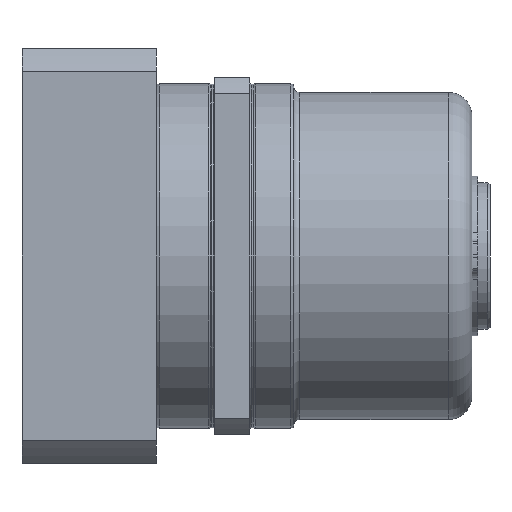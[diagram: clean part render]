
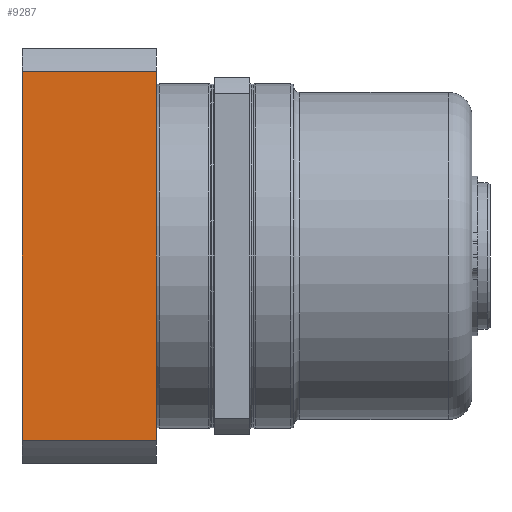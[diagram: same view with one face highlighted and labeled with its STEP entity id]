
A CAD part, front view. The second image highlights one B-rep face of the part: STEP entity #9287.
In plain terms, the highlighted planar face has unit normal (0, -1, 0).
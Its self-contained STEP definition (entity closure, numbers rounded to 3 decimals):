
#2 = DIRECTION ( 'NONE',  ( 0., 0., -1. ) ) ;
#249 = ORIENTED_EDGE ( 'NONE', *, *, #9920, .T. ) ;
#914 = AXIS2_PLACEMENT_3D ( 'NONE', #2559, #1323, #9084 ) ;
#1035 = FACE_OUTER_BOUND ( 'NONE', #7333, .T. ) ;
#1204 = VECTOR ( 'NONE', #8772, 1000. ) ;
#1323 = DIRECTION ( 'NONE',  ( 0., 1., 0. ) ) ;
#1797 = CARTESIAN_POINT ( 'NONE',  ( 0., -71., 63.119 ) ) ;
#1909 = CARTESIAN_POINT ( 'NONE',  ( -46., -71., -71. ) ) ;
#2559 = CARTESIAN_POINT ( 'NONE',  ( 0., -71., -71. ) ) ;
#2622 = LINE ( 'NONE', #11414, #11895 ) ;
#2745 = EDGE_CURVE ( 'NONE', #13774, #6111, #11878, .T. ) ;
#3075 = CARTESIAN_POINT ( 'NONE',  ( -46.001, -71., 63.119 ) ) ;
#3636 = CARTESIAN_POINT ( 'NONE',  ( 0., -71., -63.119 ) ) ;
#5247 = DIRECTION ( 'NONE',  ( -1., 0., 0. ) ) ;
#5279 = CARTESIAN_POINT ( 'NONE',  ( -46., -71., 63.119 ) ) ;
#6015 = ORIENTED_EDGE ( 'NONE', *, *, #2745, .T. ) ;
#6111 = VERTEX_POINT ( 'NONE', #12808 ) ;
#6318 = VERTEX_POINT ( 'NONE', #1797 ) ;
#7200 = VECTOR ( 'NONE', #2, 1000. ) ;
#7333 = EDGE_LOOP ( 'NONE', ( #10236, #6015, #249, #7578 ) ) ;
#7578 = ORIENTED_EDGE ( 'NONE', *, *, #9789, .F. ) ;
#7682 = CARTESIAN_POINT ( 'NONE',  ( -46.001, -71., -63.119 ) ) ;
#7705 = VECTOR ( 'NONE', #5247, 1000. ) ;
#8772 = DIRECTION ( 'NONE',  ( 1., 0., 0. ) ) ;
#9040 = VERTEX_POINT ( 'NONE', #3636 ) ;
#9084 = DIRECTION ( 'NONE',  ( 0., 0., 1. ) ) ;
#9287 = ADVANCED_FACE ( 'NONE', ( #1035 ), #14201, .F. ) ;
#9713 = LINE ( 'NONE', #7682, #1204 ) ;
#9789 = EDGE_CURVE ( 'NONE', #6318, #9040, #2622, .T. ) ;
#9854 = EDGE_CURVE ( 'NONE', #6318, #13774, #10694, .T. ) ;
#9920 = EDGE_CURVE ( 'NONE', #6111, #9040, #9713, .T. ) ;
#10236 = ORIENTED_EDGE ( 'NONE', *, *, #9854, .T. ) ;
#10694 = LINE ( 'NONE', #3075, #7705 ) ;
#11414 = CARTESIAN_POINT ( 'NONE',  ( 0., -71., -71. ) ) ;
#11878 = LINE ( 'NONE', #1909, #7200 ) ;
#11895 = VECTOR ( 'NONE', #13644, 1000. ) ;
#12808 = CARTESIAN_POINT ( 'NONE',  ( -46., -71., -63.119 ) ) ;
#13644 = DIRECTION ( 'NONE',  ( 0., 0., -1. ) ) ;
#13774 = VERTEX_POINT ( 'NONE', #5279 ) ;
#14201 = PLANE ( 'NONE',  #914 ) ;
